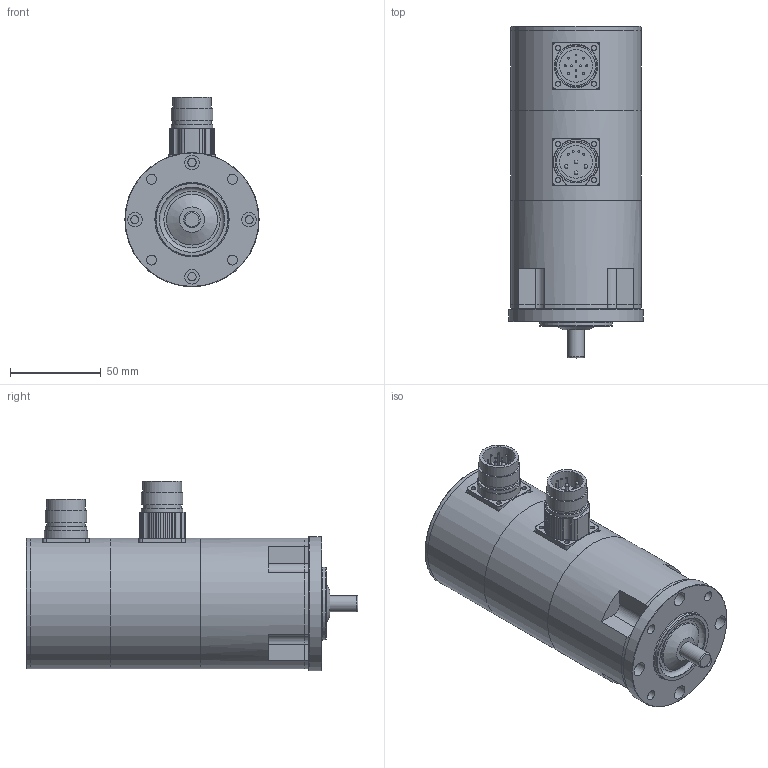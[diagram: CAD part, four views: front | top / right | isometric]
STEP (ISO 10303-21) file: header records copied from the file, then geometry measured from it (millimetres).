
FILE_DESCRIPTION(/* description */ (''),/* implementation_level */ '2;1');
FILE_NAME(/* name */ 'ksy_164e_md_r4',/* time_stamp */ '2007-03-16T12:48:41+01:00',/* author */ (''),/* organization */ (''),/* preprocessor_version */ 'ST-DEVELOPER v8',/* originating_system */ 'UNIGRAPHICS SOLUTIONS - UNIGRAPHICS 18.0',/* authorisation */ '');
FILE_SCHEMA (('AUTOMOTIVE_DESIGN { 1 2 10303 214 0 1 1 1 }'));
Length unit declared in the file: millimetre
Products named in the file (11): 014261_0; 014260_0; 06330401_0; DIN3760_org_A10x24x7_0; Rotor_SY 16.. E_0; 064269_0; 064308_0; 111024_0; Gehaeuse_SY 16.. E_0; 111014_0; KSY164_E-MD-R4_0
Assembly tree (10 placements, depth 2):
  KSY164_E-MD-R4_0
    111014_0
    Gehaeuse_SY 16.. E_0
    111024_0
    064308_0
    064269_0
    Rotor_SY 16.. E_0
    DIN3760_org_A10x24x7_0
    06330401_0
    014260_0
    014261_0
Bounding box: 74 x 183 x 104.5 mm (x, y, z)
Volume: 553381 mm3; surface area: 105909.3 mm2
Topology: 10 solids, 10 shells, 309 faces, 768 edges, 493 vertices
Faces by surface type: cylinder 164, plane 96, sphere 20, cone 19, torus 10
Full cylindrical faces by diameter (mm): 1 x16, 2 x4, 2.7 x8, 3.5 x4, 4.5 x4, 5.5 x4, 6 x4, 8 x4, 8.52 x1, 8.95 x1, 9 x1, 10 x2, 10.3 x1, 18 x2, 20 x5, 21 x3, 21.5 x2, 23 x4, 24 x3, 26 x1, 28 x1, 36 x1, 40 x1, 44 x1, 49.3 x1, 51 x3, 51.3 x1, 53 x2, 72 x4, 74 x1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
Entity records: 8298 total; most frequent: DIRECTION 1552, CARTESIAN_POINT 1286, ORIENTED_EDGE 1078, AXIS2_PLACEMENT_3D 693, EDGE_CURVE 539, EDGE_LOOP 532, VERTEX_POINT 427, CIRCLE 373
